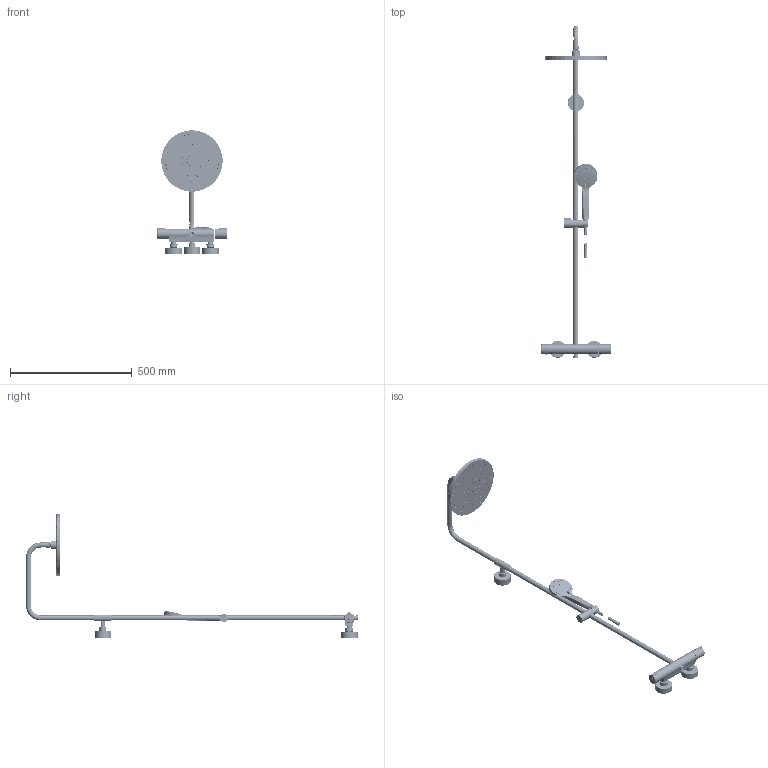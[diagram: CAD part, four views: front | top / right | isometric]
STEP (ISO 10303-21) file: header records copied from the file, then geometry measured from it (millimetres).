
FILE_DESCRIPTION(/* description */ (''),/* implementation_level */ '2;1');
FILE_NAME(/* name */ 'F4905_RP259',/* time_stamp */ '2025-04-04T13:04:05+02:00',/* author */ (''),/* organization */ (''),/* preprocessor_version */ 'ST-DEVELOPER v19.2',/* originating_system */ 'Rhino 8.1',/* authorisation */ '');
FILE_SCHEMA (('CONFIG_CONTROL_DESIGN'));
Products named in the file (1): Document
Bounding box: 288.8 x 1364.1 x 507 mm (x, y, z)
Volume: 1039838.3 mm3; surface area: 727678.7 mm2
Topology: 8 solids, 8 shells, 9395 faces, 23271 edges, 15094 vertices
Faces by surface type: plane 6017, bspline 1701, cylinder 1677
Entity records: 441326 total; most frequent: CARTESIAN_POINT 243000, ORIENTED_EDGE 46474, DIRECTION 25572, EDGE_CURVE 23237, AXIS2_PLACEMENT_3D 16633, VERTEX_POINT 15094, B_SPLINE_CURVE_WITH_KNOTS 14300, EDGE_LOOP 10945
